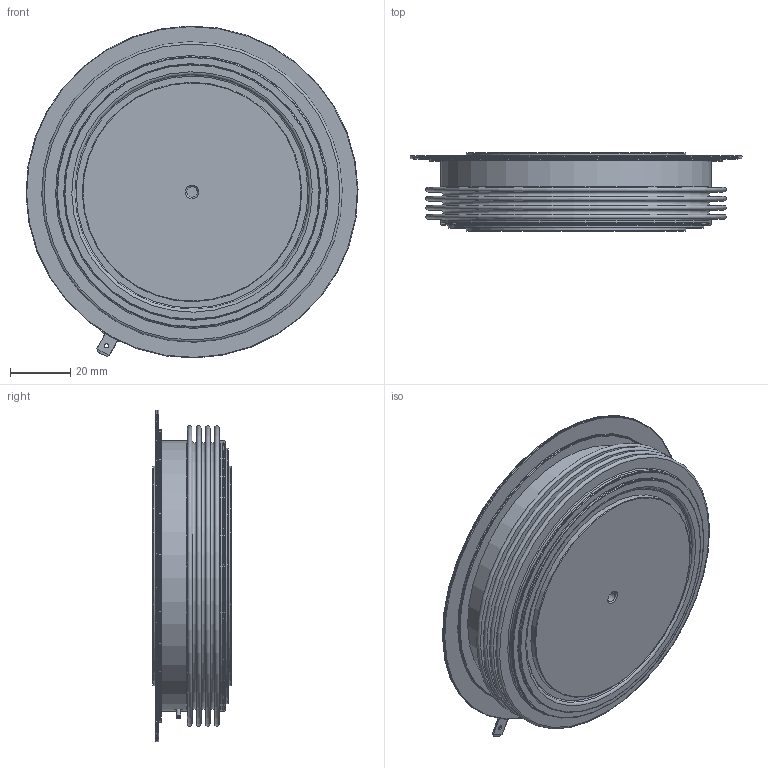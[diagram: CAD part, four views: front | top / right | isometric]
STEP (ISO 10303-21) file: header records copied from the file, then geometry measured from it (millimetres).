
FILE_DESCRIPTION(/* description */ (''),/* implementation_level */ '2;1');
FILE_NAME(/* name */ '\\10.38.22.188\03_技術部共有\S2_商品技術課\S2102_ハイパワー製品群\01_IXYS製品測定データ\005 図面\★ 3Dモデル\サイリスタ\I2714PL160\I2714PL160.stp',/* time_stamp */ '2024-03-06T10:03:46+09:00',/* author */ ('00210404296'),/* organization */ (''),/* preprocessor_version */ 'ST-DEVELOPER v17',/* originating_system */ 'Autodesk Inventor 2019',/* authorisation */ '');
FILE_SCHEMA (('AUTOMOTIVE_DESIGN { 1 0 10303 214 3 1 1 }'));
Length unit declared in the file: millimetre
Products named in the file (4): I2714PL160_モデル_完成版(作成中); I2714PL160_モデル_完成版(作成中)
_1; GATE端子垣; Cathodeタブ端子2(垣内作成中)
Assembly tree (3 placements, depth 2):
  I2714PL160_モデル_完成版(作成中)
    I2714PL160_モデル_完成版(作成中)
_1
    GATE端子垣
    Cathodeタブ端子2(垣内作成中)
Bounding box: 110.48 x 26 x 110.48 mm (x, y, z)
Volume: 170428.6 mm3; surface area: 39195.1 mm2
Topology: 3 solids, 3 shells, 108 faces, 293 edges, 211 vertices
Faces by surface type: cylinder 36, plane 36, torus 28, sphere 4, cone 3, bspline 1
Full cylindrical faces by diameter (mm): 1.1 x1, 1.4 x1, 1.5 x2, 2 x2, 3.55 x2, 73 x2, 85 x1, 90 x3, 97.5 x1, 110.5 x2
Entity records: 3952 total; most frequent: CARTESIAN_POINT 826, DIRECTION 719, ORIENTED_EDGE 586, AXIS2_PLACEMENT_3D 328, EDGE_CURVE 293, VERTEX_POINT 211, CIRCLE 198, EDGE_LOOP 130
